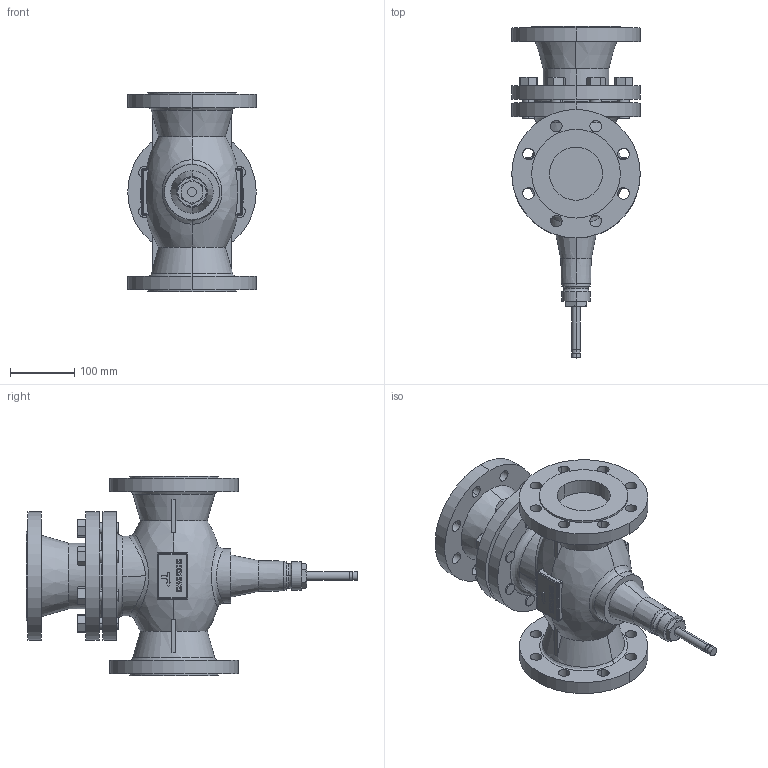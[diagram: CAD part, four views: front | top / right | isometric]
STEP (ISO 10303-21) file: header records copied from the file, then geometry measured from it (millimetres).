
FILE_DESCRIPTION((''),'2;1');
FILE_NAME('000325.dwg.stp','2006-10-23T13:46:09',(''),(''),'Mechanical Desktop 2006','Mechanical Desktop 2006',', , ');
FILE_SCHEMA(('AUTOMOTIVE_DESIGN { 1 2 10303 214 0 1 1 1 }'));
Length unit declared in the file: millimetre
Products named in the file (1): Product
Bounding box: 200 x 516.5 x 310 mm (x, y, z)
Volume: 7819142 mm3; surface area: 691439.1 mm2
Topology: 44 solids, 44 shells, 732 faces, 1875 edges, 1231 vertices
Faces by surface type: cylinder 328, plane 246, bspline 134, cone 12, sphere 8, torus 4
Entity records: 24474 total; most frequent: CARTESIAN_POINT 6875, ORIENTED_EDGE 3734, DIRECTION 3568, EDGE_CURVE 1867, AXIS2_PLACEMENT_3D 1327, VERTEX_POINT 1231, VECTOR 914, LINE 914
